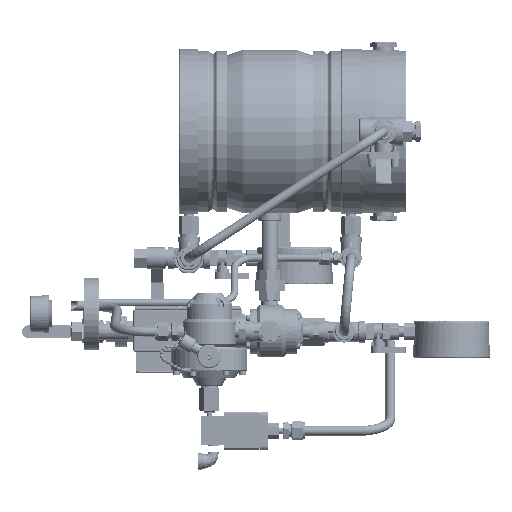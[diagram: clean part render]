
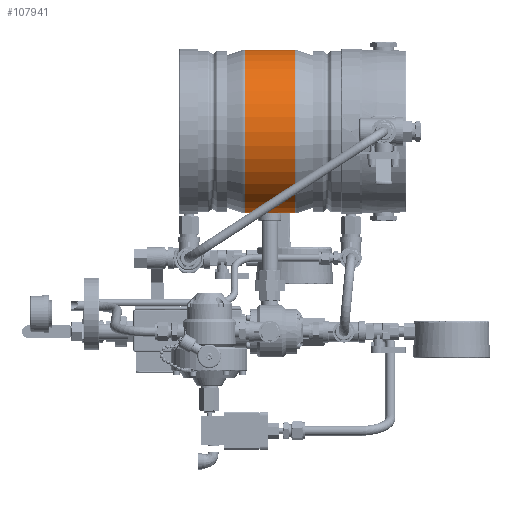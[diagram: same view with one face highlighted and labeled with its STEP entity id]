
A CAD part, front view. The second image highlights one B-rep face of the part: STEP entity #107941.
In plain terms, the highlighted cylindrical face has radius 107.5 mm (diameter 215 mm), a partial arc.
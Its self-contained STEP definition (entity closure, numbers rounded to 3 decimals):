
#4724=B_SPLINE_CURVE_WITH_KNOTS('',3,(#180037,#180038,#180039,#180040,#180041,
#180042,#180043,#180044,#180045,#180046,#180047,#180048,#180049,#180050,
#180051,#180052,#180053,#180054),.UNSPECIFIED.,.F.,.F.,(4,2,2,2,2,2,2,2,
4),(2.112,2.64,3.168,3.696,
4.224,4.752,5.28,5.808,6.336),
 .UNSPECIFIED.);
#13151=FACE_OUTER_BOUND('',#19918,.T.);
#19918=EDGE_LOOP('',(#82695,#82696,#82697,#82698,#82699,#82700,#82701,#82702,
#82703,#82704));
#26479=LINE('',#180021,#33271);
#26480=LINE('',#180027,#33272);
#26481=LINE('',#180033,#33273);
#26482=LINE('',#180035,#33274);
#26483=LINE('',#180055,#33275);
#33271=VECTOR('',#137150,107.5);
#33272=VECTOR('',#137155,107.5);
#33273=VECTOR('',#137160,107.5);
#33274=VECTOR('',#137161,10.);
#33275=VECTOR('',#137162,10.);
#39667=CIRCLE('',#117117,107.5);
#39668=CIRCLE('',#117118,107.5);
#39669=CIRCLE('',#117119,107.5);
#39670=CIRCLE('',#117120,107.5);
#46598=VERTEX_POINT('',#180019);
#46599=VERTEX_POINT('',#180020);
#46600=VERTEX_POINT('',#180022);
#46601=VERTEX_POINT('',#180024);
#46602=VERTEX_POINT('',#180026);
#46603=VERTEX_POINT('',#180028);
#46604=VERTEX_POINT('',#180030);
#46605=VERTEX_POINT('',#180032);
#46606=VERTEX_POINT('',#180034);
#46607=VERTEX_POINT('',#180036);
#59304=EDGE_CURVE('',#46598,#46599,#26479,.T.);
#59305=EDGE_CURVE('',#46600,#46598,#39667,.T.);
#59306=EDGE_CURVE('',#46601,#46600,#39668,.T.);
#59307=EDGE_CURVE('',#46602,#46601,#26480,.T.);
#59308=EDGE_CURVE('',#46603,#46602,#39669,.T.);
#59309=EDGE_CURVE('',#46604,#46603,#39670,.T.);
#59310=EDGE_CURVE('',#46605,#46604,#26481,.T.);
#59311=EDGE_CURVE('',#46606,#46605,#26482,.T.);
#59312=EDGE_CURVE('',#46606,#46607,#4724,.T.);
#59313=EDGE_CURVE('',#46599,#46607,#26483,.T.);
#82695=ORIENTED_EDGE('',*,*,#59304,.F.);
#82696=ORIENTED_EDGE('',*,*,#59305,.F.);
#82697=ORIENTED_EDGE('',*,*,#59306,.F.);
#82698=ORIENTED_EDGE('',*,*,#59307,.F.);
#82699=ORIENTED_EDGE('',*,*,#59308,.F.);
#82700=ORIENTED_EDGE('',*,*,#59309,.F.);
#82701=ORIENTED_EDGE('',*,*,#59310,.F.);
#82702=ORIENTED_EDGE('',*,*,#59311,.F.);
#82703=ORIENTED_EDGE('',*,*,#59312,.T.);
#82704=ORIENTED_EDGE('',*,*,#59313,.F.);
#98529=CYLINDRICAL_SURFACE('',#117116,107.5);
#107941=ADVANCED_FACE('',(#13151),#98529,.T.);
#117116=AXIS2_PLACEMENT_3D('',#180018,#137148,#137149);
#117117=AXIS2_PLACEMENT_3D('',#180023,#137151,#137152);
#117118=AXIS2_PLACEMENT_3D('',#180025,#137153,#137154);
#117119=AXIS2_PLACEMENT_3D('',#180029,#137156,#137157);
#117120=AXIS2_PLACEMENT_3D('',#180031,#137158,#137159);
#137148=DIRECTION('center_axis',(-1.,0.,0.));
#137149=DIRECTION('ref_axis',(0.,0.,
1.));
#137150=DIRECTION('',(-1.,0.,0.));
#137151=DIRECTION('center_axis',(1.,0.,0.));
#137152=DIRECTION('ref_axis',(0.,1.,0.));
#137153=DIRECTION('center_axis',(1.,0.,0.));
#137154=DIRECTION('ref_axis',(0.,1.,0.));
#137155=DIRECTION('',(1.,0.,0.));
#137156=DIRECTION('center_axis',(-1.,0.,0.));
#137157=DIRECTION('ref_axis',(0.,1.,0.));
#137158=DIRECTION('center_axis',(-1.,0.,0.));
#137159=DIRECTION('ref_axis',(0.,1.,0.));
#137160=DIRECTION('',(-1.,0.,0.));
#137161=DIRECTION('',(-1.,0.,0.));
#137162=DIRECTION('',(-1.,0.,0.));
#180018=CARTESIAN_POINT('Origin',(335.987,-797.215,-733.424));
#180019=CARTESIAN_POINT('',(387.64,-797.215,-840.924));
#180020=CARTESIAN_POINT('',(369.763,-797.215,-840.924));
#180021=CARTESIAN_POINT('',(335.987,-797.215,-840.924));
#180022=CARTESIAN_POINT('',(387.64,-797.215,-625.924));
#180023=CARTESIAN_POINT('Origin',(387.64,-797.215,-733.424));
#180024=CARTESIAN_POINT('',(387.64,-689.715,-733.424));
#180025=CARTESIAN_POINT('Origin',(387.64,-797.215,-733.424));
#180026=CARTESIAN_POINT('',(321.886,-689.715,-733.424));
#180027=CARTESIAN_POINT('',(335.987,-689.715,-733.424));
#180028=CARTESIAN_POINT('',(321.886,-797.215,-625.924));
#180029=CARTESIAN_POINT('Origin',(321.886,-797.215,-733.424));
#180030=CARTESIAN_POINT('',(321.886,-797.215,-840.924));
#180031=CARTESIAN_POINT('Origin',(321.886,-797.215,-733.424));
#180032=CARTESIAN_POINT('',(339.763,-797.215,-840.924));
#180033=CARTESIAN_POINT('',(335.987,-797.215,-840.924));
#180034=CARTESIAN_POINT('',(340.763,-797.215,-840.924));
#180035=CARTESIAN_POINT('',(335.987,-797.215,-840.924));
#180036=CARTESIAN_POINT('',(368.763,-797.215,-840.924));
#180037=CARTESIAN_POINT('Ctrl Pts',(340.763,-797.215,-840.924));
#180038=CARTESIAN_POINT('Ctrl Pts',(340.763,-798.976,-840.924));
#180039=CARTESIAN_POINT('Ctrl Pts',(341.115,-800.851,
-840.876));
#180040=CARTESIAN_POINT('Ctrl Pts',(342.545,-804.3,
-840.704));
#180041=CARTESIAN_POINT('Ctrl Pts',(343.622,-805.873,-840.582));
#180042=CARTESIAN_POINT('Ctrl Pts',(346.106,-808.357,
-840.352));
#180043=CARTESIAN_POINT('Ctrl Pts',(347.679,-809.434,
-840.23));
#180044=CARTESIAN_POINT('Ctrl Pts',(351.127,-810.863,
-840.056));
#180045=CARTESIAN_POINT('Ctrl Pts',(353.003,-811.215,
-840.008));
#180046=CARTESIAN_POINT('Ctrl Pts',(356.523,-811.215,
-840.008));
#180047=CARTESIAN_POINT('Ctrl Pts',(358.399,-810.863,
-840.056));
#180048=CARTESIAN_POINT('Ctrl Pts',(361.848,-809.434,
-840.23));
#180049=CARTESIAN_POINT('Ctrl Pts',(363.421,-808.357,
-840.352));
#180050=CARTESIAN_POINT('Ctrl Pts',(365.905,-805.873,-840.582));
#180051=CARTESIAN_POINT('Ctrl Pts',(366.982,-804.3,
-840.704));
#180052=CARTESIAN_POINT('Ctrl Pts',(368.411,-800.851,
-840.876));
#180053=CARTESIAN_POINT('Ctrl Pts',(368.763,-798.976,-840.924));
#180054=CARTESIAN_POINT('Ctrl Pts',(368.763,-797.215,-840.924));
#180055=CARTESIAN_POINT('',(335.987,-797.215,-840.924));
